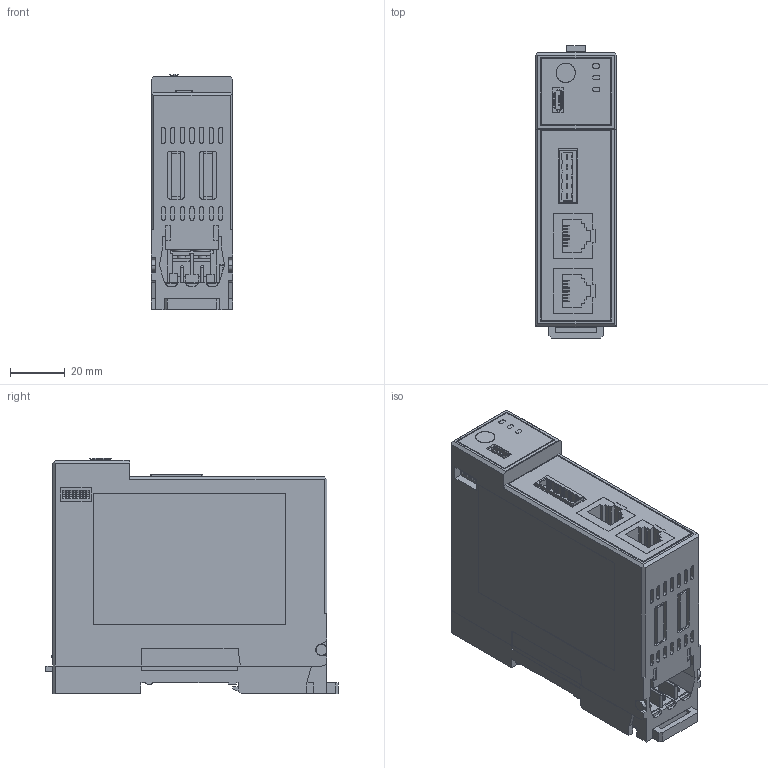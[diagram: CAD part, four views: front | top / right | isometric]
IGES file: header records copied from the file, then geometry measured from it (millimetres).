
Start section: SolidWorks IGES file using analytic representation for surfaces
Global section: file name: C:\Users\moriuchi\Desktop\QMC1-HP用モデリング\QMC1_210909.IGS; native system: SolidWorks 2018; preprocessor: SolidWorks 2018; author: moriuchi; date: 210909.101906; units: millimetre
Bounding box: 29.8 x 106.6 x 85.82 mm (x, y, z)
Surface area: 38659.4 mm2 (no closed solid volume)
Topology: 0 solids, 0 shells, 1298 faces, 9084 edges, 9082 vertices
Faces by surface type: bspline 1064, revolution 234
